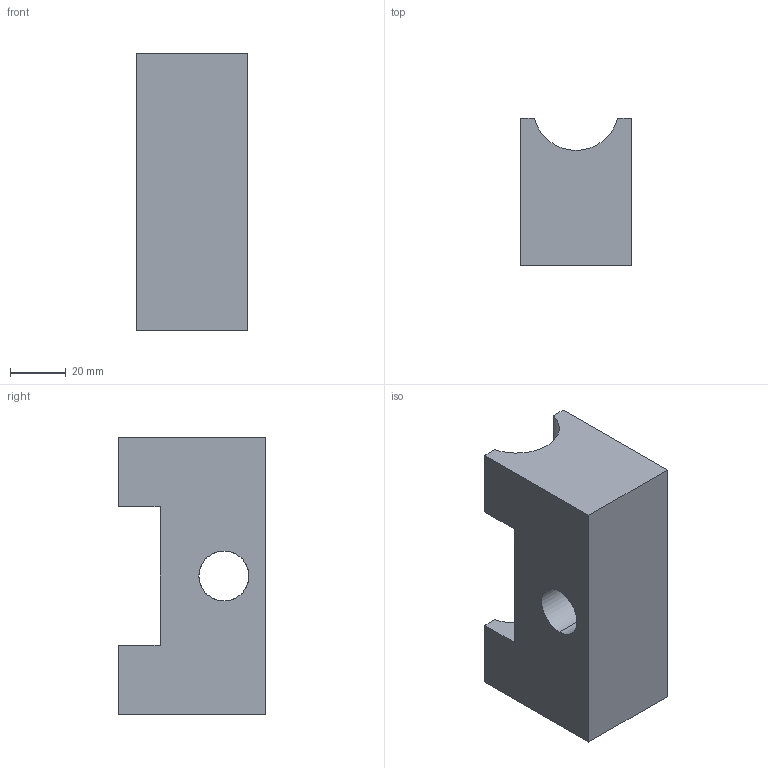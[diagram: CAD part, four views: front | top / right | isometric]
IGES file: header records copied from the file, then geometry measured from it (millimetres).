
Start section: SolidWorks IGES file using analytic representation for surfaces
Global section: file name: C:\Users\Dieudonné\Desktop\patin guidage 30.IGS; native system: SolidWorks 2016; preprocessor: SolidWorks 2016; author: Dieudonné; date: 160216.130907; units: millimetre
Bounding box: 40 x 53 x 100 mm (x, y, z)
Surface area: 23802.5 mm2 (no closed solid volume)
Topology: 0 solids, 0 shells, 16 faces, 204 edges, 204 vertices
Faces by surface type: bspline 12, revolution 4
